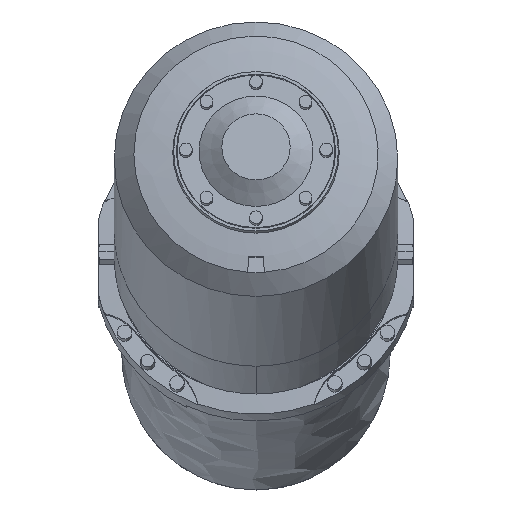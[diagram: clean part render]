
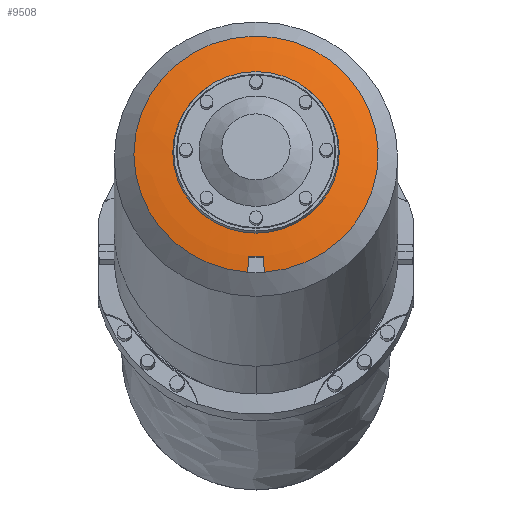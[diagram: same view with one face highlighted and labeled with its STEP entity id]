
A CAD part, left-side view. The second image highlights one B-rep face of the part: STEP entity #9508.
In plain terms, the highlighted toroidal (fillet/blend) face has major radius 57.677 mm and minor radius 419.082 mm.
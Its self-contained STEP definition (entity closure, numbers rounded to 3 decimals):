
#361 = AXIS2_PLACEMENT_3D ( 'NONE', #3883, #4783, #7460 ) ;
#402 = EDGE_CURVE ( 'NONE', #966, #717, #9769, .T. ) ;
#717 = VERTEX_POINT ( 'NONE', #7340 ) ;
#966 = VERTEX_POINT ( 'NONE', #6597 ) ;
#968 = B_SPLINE_CURVE_WITH_KNOTS ( 'NONE', 3,
 ( #9858, #9693, #1201, #1900 ),
 .UNSPECIFIED., .F., .F.,
 ( 4, 4 ),
 ( 0.003, 0.021 ),
 .UNSPECIFIED. ) ;
#1201 = CARTESIAN_POINT ( 'NONE',  ( -766.884, -229.5, 792.762 ) ) ;
#1317 = CARTESIAN_POINT ( 'NONE',  ( -766.812, -217.5, 792.739 ) ) ;
#1639 = CARTESIAN_POINT ( 'NONE',  ( -767.707, -215.784, 772.476 ) ) ;
#1649 = DIRECTION ( 'NONE',  ( 0.968, 0., -0.252 ) ) ;
#1830 = TOROIDAL_SURFACE ( 'NONE', #361, 57.677, 419.082 ) ;
#1900 = CARTESIAN_POINT ( 'NONE',  ( -766.812, -235.5, 792.739 ) ) ;
#2417 = CARTESIAN_POINT ( 'NONE',  ( -766.812, -235.5, 792.739 ) ) ;
#2516 = ORIENTED_EDGE ( 'NONE', *, *, #402, .T. ) ;
#3136 = CARTESIAN_POINT ( 'NONE',  ( -737.13, -226.5, 924.302 ) ) ;
#3883 = CARTESIAN_POINT ( 'NONE',  ( -334.261, -226.5, 819.297 ) ) ;
#3991 = FACE_OUTER_BOUND ( 'NONE', #8908, .T. ) ;
#3994 = CARTESIAN_POINT ( 'NONE',  ( -767.276, -236.077, 785.972 ) ) ;
#4201 = DIRECTION ( 'NONE',  ( 0., 1., 0. ) ) ;
#4324 = CIRCLE ( 'NONE', #7234, 155. ) ;
#4449 = CARTESIAN_POINT ( 'NONE',  ( -728.707, -226.5, 922.107 ) ) ;
#4732 = CARTESIAN_POINT ( 'NONE',  ( -767.707, -237.216, 772.476 ) ) ;
#4783 = DIRECTION ( 'NONE',  ( 0.968, 0., -0.252 ) ) ;
#4915 = EDGE_CURVE ( 'NONE', #966, #9127, #4324, .T. ) ;
#5096 = CARTESIAN_POINT ( 'NONE',  ( -767.574, -216.352, 779.238 ) ) ;
#5145 = ORIENTED_EDGE ( 'NONE', *, *, #4915, .F. ) ;
#5296 = DIRECTION ( 'NONE',  ( 0., 1., 0. ) ) ;
#5322 = B_SPLINE_CURVE_WITH_KNOTS ( 'NONE', 3,
 ( #4732, #7347, #3994, #7570 ),
 .UNSPECIFIED., .F., .F.,
 ( 4, 4 ),
 ( 0.104, 0.124 ),
 .UNSPECIFIED. ) ;
#5895 = CARTESIAN_POINT ( 'NONE',  ( -737.13, -120.861, 924.302 ) ) ;
#6597 = CARTESIAN_POINT ( 'NONE',  ( -767.707, -215.784, 772.476 ) ) ;
#6967 = CARTESIAN_POINT ( 'NONE',  ( -767.707, -237.216, 772.476 ) ) ;
#7126 = ORIENTED_EDGE ( 'NONE', *, *, #9366, .T. ) ;
#7234 = AXIS2_PLACEMENT_3D ( 'NONE', #4449, #8604, #5296 ) ;
#7340 = CARTESIAN_POINT ( 'NONE',  ( -766.812, -217.5, 792.739 ) ) ;
#7347 = CARTESIAN_POINT ( 'NONE',  ( -767.574, -236.649, 779.218 ) ) ;
#7460 = DIRECTION ( 'NONE',  ( 0., 1., 0. ) ) ;
#7570 = CARTESIAN_POINT ( 'NONE',  ( -766.812, -235.5, 792.739 ) ) ;
#7624 = AXIS2_PLACEMENT_3D ( 'NONE', #3136, #1649, #4201 ) ;
#8112 = ORIENTED_EDGE ( 'NONE', *, *, #10949, .F. ) ;
#8544 = EDGE_CURVE ( 'NONE', #11068, #11068, #10897, .T. ) ;
#8604 = DIRECTION ( 'NONE',  ( 0.968, 0., -0.252 ) ) ;
#8722 = ORIENTED_EDGE ( 'NONE', *, *, #8544, .T. ) ;
#8908 = EDGE_LOOP ( 'NONE', ( #8112, #5145, #2516, #7126 ) ) ;
#9015 = EDGE_LOOP ( 'NONE', ( #8722 ) ) ;
#9127 = VERTEX_POINT ( 'NONE', #6967 ) ;
#9366 = EDGE_CURVE ( 'NONE', #717, #10595, #968, .T. ) ;
#9373 = CARTESIAN_POINT ( 'NONE',  ( -767.275, -216.924, 785.992 ) ) ;
#9508 = ADVANCED_FACE ( 'NONE', ( #9968, #3991 ), #1830, .T. ) ;
#9693 = CARTESIAN_POINT ( 'NONE',  ( -766.884, -223.5, 792.762 ) ) ;
#9769 = B_SPLINE_CURVE_WITH_KNOTS ( 'NONE', 3,
 ( #1639, #5096, #9373, #1317 ),
 .UNSPECIFIED., .F., .F.,
 ( 4, 4 ),
 ( 0., 0.02 ),
 .UNSPECIFIED. ) ;
#9858 = CARTESIAN_POINT ( 'NONE',  ( -766.812, -217.5, 792.739 ) ) ;
#9968 = FACE_OUTER_BOUND ( 'NONE', #9015, .T. ) ;
#10595 = VERTEX_POINT ( 'NONE', #2417 ) ;
#10897 = CIRCLE ( 'NONE', #7624, 105.639 ) ;
#10949 = EDGE_CURVE ( 'NONE', #9127, #10595, #5322, .T. ) ;
#11068 = VERTEX_POINT ( 'NONE', #5895 ) ;
